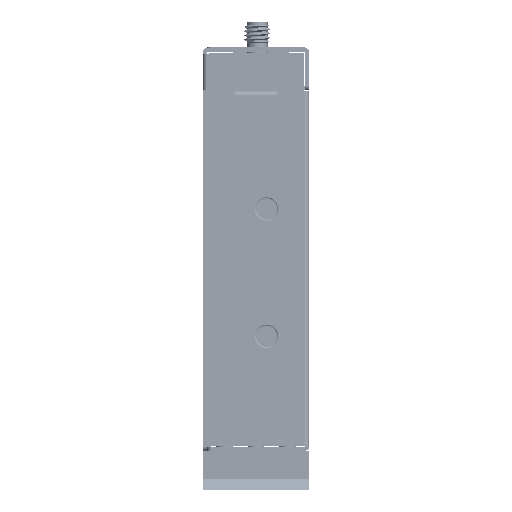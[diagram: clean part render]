
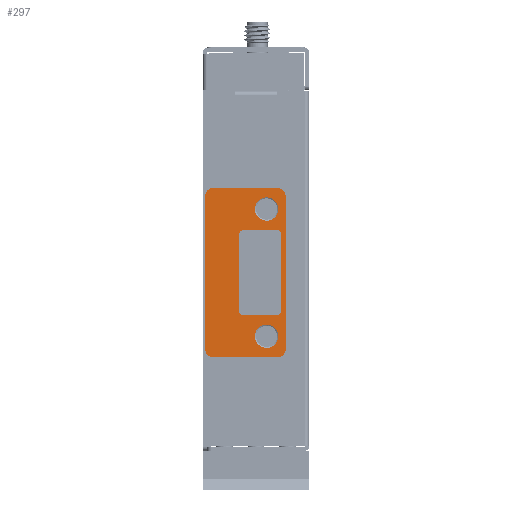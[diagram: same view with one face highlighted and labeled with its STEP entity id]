
A CAD part, front view. The second image highlights one B-rep face of the part: STEP entity #297.
In plain terms, the highlighted planar face has unit normal (0, -1, 0) as drawn and (0, 0, 1) by its records, which use the part's own axes.
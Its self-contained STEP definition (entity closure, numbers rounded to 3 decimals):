
#297 = ADVANCED_FACE ( 'NONE', ( #130626, #376754, #26227 ), #267659, .F. ) ;
#2869 = ORIENTED_EDGE ( 'NONE', *, *, #182065, .T. ) ;
#3781 = CIRCLE ( 'NONE', #159882, 2. ) ;
#13588 = DIRECTION ( 'NONE',  ( 1., 0., 0. ) ) ;
#18655 = CIRCLE ( 'NONE', #226169, 2. ) ;
#26227 = FACE_OUTER_BOUND ( 'NONE', #364572, .T. ) ;
#26558 = ORIENTED_EDGE ( 'NONE', *, *, #333102, .F. ) ;
#28538 = DIRECTION ( 'NONE',  ( 0., 0., -1. ) ) ;
#33576 = CARTESIAN_POINT ( 'NONE',  ( 0., 17., 0.8 ) ) ;
#36360 = AXIS2_PLACEMENT_3D ( 'NONE', #91323, #28538, #98207 ) ;
#38443 = CARTESIAN_POINT ( 'NONE',  ( 32.25, 14.5, 0.8 ) ) ;
#41798 = CARTESIAN_POINT ( 'NONE',  ( 35., 14.5, 0.8 ) ) ;
#55750 = EDGE_CURVE ( 'NONE', #458310, #391351, #18655, .T. ) ;
#58756 = EDGE_CURVE ( 'NONE', #66471, #64657, #413912, .T. ) ;
#59733 = ORIENTED_EDGE ( 'NONE', *, *, #182343, .T. ) ;
#60745 = CARTESIAN_POINT ( 'NONE',  ( 38., 0., 0.8 ) ) ;
#63100 = VERTEX_POINT ( 'NONE', #152059 ) ;
#64657 = VERTEX_POINT ( 'NONE', #33576 ) ;
#66471 = VERTEX_POINT ( 'NONE', #162198 ) ;
#70805 = LINE ( 'NONE', #77636, #383443 ) ;
#72489 = ORIENTED_EDGE ( 'NONE', *, *, #282351, .F. ) ;
#75080 = CIRCLE ( 'NONE', #423548, 2.75 ) ;
#77636 = CARTESIAN_POINT ( 'NONE',  ( 0., 2., 0.8 ) ) ;
#87919 = DIRECTION ( 'NONE',  ( 0., 0., 1. ) ) ;
#91323 = CARTESIAN_POINT ( 'NONE',  ( 2., 2., 0.8 ) ) ;
#96462 = DIRECTION ( 'NONE',  ( -1., 0., 0. ) ) ;
#98207 = DIRECTION ( 'NONE',  ( 0., -1., 0. ) ) ;
#104605 = DIRECTION ( 'NONE',  ( 0., 0., 1. ) ) ;
#105426 = DIRECTION ( 'NONE',  ( 1., 0., 0. ) ) ;
#107790 = ORIENTED_EDGE ( 'NONE', *, *, #386079, .T. ) ;
#114342 = AXIS2_PLACEMENT_3D ( 'NONE', #299238, #440532, #13588 ) ;
#124781 = LINE ( 'NONE', #266371, #319647 ) ;
#127232 = EDGE_CURVE ( 'NONE', #64657, #458310, #70805, .T. ) ;
#130626 = FACE_BOUND ( 'NONE', #317879, .T. ) ;
#143940 = DIRECTION ( 'NONE',  ( 1., 0., 0. ) ) ;
#148879 = DIRECTION ( 'NONE',  ( 0., 0., 1. ) ) ;
#152059 = CARTESIAN_POINT ( 'NONE',  ( 2.25, 14.5, 0.8 ) ) ;
#152394 = DIRECTION ( 'NONE',  ( -1., 0., 0. ) ) ;
#159062 = ORIENTED_EDGE ( 'NONE', *, *, #339559, .T. ) ;
#159882 = AXIS2_PLACEMENT_3D ( 'NONE', #223171, #364719, #334467 ) ;
#161395 = DIRECTION ( 'NONE',  ( 0., 0., 1. ) ) ;
#162198 = CARTESIAN_POINT ( 'NONE',  ( 2., 19., 0.8 ) ) ;
#169609 = ORIENTED_EDGE ( 'NONE', *, *, #216669, .F. ) ;
#174650 = DIRECTION ( 'NONE',  ( 1., 0., 0. ) ) ;
#176679 = AXIS2_PLACEMENT_3D ( 'NONE', #362426, #148879, #427355 ) ;
#182065 = EDGE_CURVE ( 'NONE', #391351, #187738, #349206, .T. ) ;
#182343 = EDGE_CURVE ( 'NONE', #243101, #260710, #124781, .T. ) ;
#182634 = LINE ( 'NONE', #250106, #442217 ) ;
#184665 = EDGE_CURVE ( 'NONE', #359924, #63100, #459086, .T. ) ;
#187738 = VERTEX_POINT ( 'NONE', #60745 ) ;
#189547 = CARTESIAN_POINT ( 'NONE',  ( 0., 2., 0.8 ) ) ;
#205309 = CARTESIAN_POINT ( 'NONE',  ( 2., 0., 0.8 ) ) ;
#207349 = AXIS2_PLACEMENT_3D ( 'NONE', #41798, #104605, #143940 ) ;
#210370 = CIRCLE ( 'NONE', #276954, 2. ) ;
#214395 = AXIS2_PLACEMENT_3D ( 'NONE', #276893, #244383, #174650 ) ;
#216669 = EDGE_CURVE ( 'NONE', #63100, #359924, #75080, .T. ) ;
#221818 = EDGE_CURVE ( 'NONE', #260710, #239253, #210370, .T. ) ;
#223171 = CARTESIAN_POINT ( 'NONE',  ( 38., 2., 0.8 ) ) ;
#223876 = CARTESIAN_POINT ( 'NONE',  ( 38., 19., 0.8 ) ) ;
#226169 = AXIS2_PLACEMENT_3D ( 'NONE', #255169, #87919, #229538 ) ;
#229538 = DIRECTION ( 'NONE',  ( -1., 0., 0. ) ) ;
#237873 = VECTOR ( 'NONE', #105426, 1000. ) ;
#239253 = VERTEX_POINT ( 'NONE', #223876 ) ;
#240386 = DIRECTION ( 'NONE',  ( 0., 0., 1. ) ) ;
#243101 = VERTEX_POINT ( 'NONE', #456614 ) ;
#244383 = DIRECTION ( 'NONE',  ( 0., 0., 1. ) ) ;
#249498 = DIRECTION ( 'NONE',  ( 0., -1., 0. ) ) ;
#250106 = CARTESIAN_POINT ( 'NONE',  ( 2., 19., 0.8 ) ) ;
#255169 = CARTESIAN_POINT ( 'NONE',  ( 2., 2., 0.8 ) ) ;
#260710 = VERTEX_POINT ( 'NONE', #278458 ) ;
#266371 = CARTESIAN_POINT ( 'NONE',  ( 40., 2., 0.8 ) ) ;
#267659 = PLANE ( 'NONE',  #36360 ) ;
#276893 = CARTESIAN_POINT ( 'NONE',  ( 5., 14.5, 0.8 ) ) ;
#276954 = AXIS2_PLACEMENT_3D ( 'NONE', #316817, #240386, #96462 ) ;
#278458 = CARTESIAN_POINT ( 'NONE',  ( 40., 17., 0.8 ) ) ;
#282351 = EDGE_CURVE ( 'NONE', #357465, #432253, #329375, .T. ) ;
#299238 = CARTESIAN_POINT ( 'NONE',  ( 35., 14.5, 0.8 ) ) ;
#301316 = DIRECTION ( 'NONE',  ( 0., 1., 0. ) ) ;
#309383 = EDGE_LOOP ( 'NONE', ( #26558, #72489 ) ) ;
#316817 = CARTESIAN_POINT ( 'NONE',  ( 38., 17., 0.8 ) ) ;
#317879 = EDGE_LOOP ( 'NONE', ( #386080, #169609 ) ) ;
#319647 = VECTOR ( 'NONE', #301316, 1000. ) ;
#329375 = CIRCLE ( 'NONE', #114342, 2.75 ) ;
#333102 = EDGE_CURVE ( 'NONE', #432253, #357465, #385052, .T. ) ;
#334467 = DIRECTION ( 'NONE',  ( 1., 0., 0. ) ) ;
#339559 = EDGE_CURVE ( 'NONE', #239253, #66471, #182634, .T. ) ;
#341790 = CARTESIAN_POINT ( 'NONE',  ( 7.75, 14.5, 0.8 ) ) ;
#342399 = ORIENTED_EDGE ( 'NONE', *, *, #58756, .T. ) ;
#342986 = ORIENTED_EDGE ( 'NONE', *, *, #55750, .T. ) ;
#349206 = LINE ( 'NONE', #205309, #237873 ) ;
#357465 = VERTEX_POINT ( 'NONE', #38443 ) ;
#359924 = VERTEX_POINT ( 'NONE', #341790 ) ;
#362426 = CARTESIAN_POINT ( 'NONE',  ( 2., 17., 0.8 ) ) ;
#364572 = EDGE_LOOP ( 'NONE', ( #342986, #2869, #107790, #59733, #457747, #159062, #342399, #375690 ) ) ;
#364719 = DIRECTION ( 'NONE',  ( 0., 0., 1. ) ) ;
#367967 = CARTESIAN_POINT ( 'NONE',  ( 37.75, 14.5, 0.8 ) ) ;
#372702 = CARTESIAN_POINT ( 'NONE',  ( 5., 14.5, 0.8 ) ) ;
#375690 = ORIENTED_EDGE ( 'NONE', *, *, #127232, .T. ) ;
#376754 = FACE_BOUND ( 'NONE', #309383, .T. ) ;
#383443 = VECTOR ( 'NONE', #249498, 1000. ) ;
#385052 = CIRCLE ( 'NONE', #207349, 2.75 ) ;
#386079 = EDGE_CURVE ( 'NONE', #187738, #243101, #3781, .T. ) ;
#386080 = ORIENTED_EDGE ( 'NONE', *, *, #184665, .F. ) ;
#391351 = VERTEX_POINT ( 'NONE', #443831 ) ;
#413912 = CIRCLE ( 'NONE', #176679, 2. ) ;
#423548 = AXIS2_PLACEMENT_3D ( 'NONE', #372702, #161395, #444430 ) ;
#427355 = DIRECTION ( 'NONE',  ( -1., 0., 0. ) ) ;
#432253 = VERTEX_POINT ( 'NONE', #367967 ) ;
#440532 = DIRECTION ( 'NONE',  ( 0., 0., 1. ) ) ;
#442217 = VECTOR ( 'NONE', #152394, 1000. ) ;
#443831 = CARTESIAN_POINT ( 'NONE',  ( 2., 0., 0.8 ) ) ;
#444430 = DIRECTION ( 'NONE',  ( 1., 0., 0. ) ) ;
#456614 = CARTESIAN_POINT ( 'NONE',  ( 40., 2., 0.8 ) ) ;
#457747 = ORIENTED_EDGE ( 'NONE', *, *, #221818, .T. ) ;
#458310 = VERTEX_POINT ( 'NONE', #189547 ) ;
#459086 = CIRCLE ( 'NONE', #214395, 2.75 ) ;
